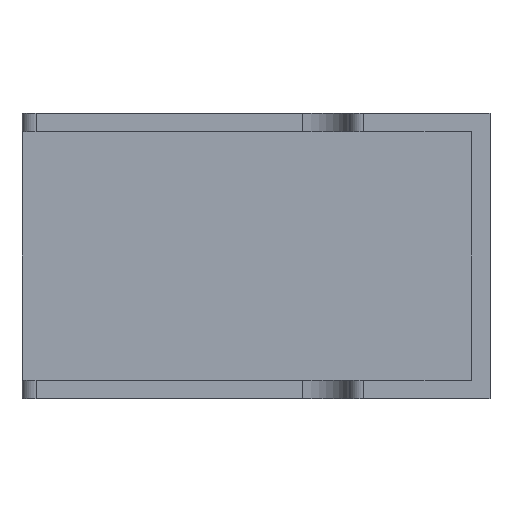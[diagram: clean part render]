
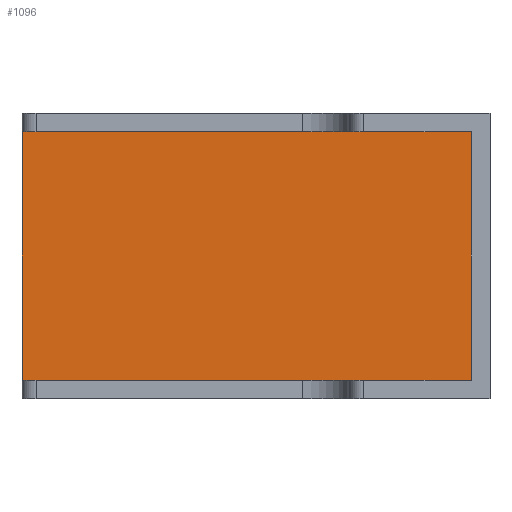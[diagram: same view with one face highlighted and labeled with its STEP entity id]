
A CAD part, front view. The second image highlights one B-rep face of the part: STEP entity #1096.
In plain terms, the highlighted planar face has unit normal (0, -1, 0).
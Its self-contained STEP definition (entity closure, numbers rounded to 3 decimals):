
#10 = CARTESIAN_POINT ( 'NONE',  ( 0., -2., 28.5 ) ) ;
#37 = CARTESIAN_POINT ( 'NONE',  ( 48., -2., 30.5 ) ) ;
#67 = EDGE_CURVE ( 'NONE', #335, #705, #248, .T. ) ;
#84 = ORIENTED_EDGE ( 'NONE', *, *, #923, .F. ) ;
#88 = DIRECTION ( 'NONE',  ( 0., 0., 1. ) ) ;
#137 = DIRECTION ( 'NONE',  ( 0., 0., -1. ) ) ;
#204 = PLANE ( 'NONE',  #341 ) ;
#248 = LINE ( 'NONE', #10, #1522 ) ;
#262 = ORIENTED_EDGE ( 'NONE', *, *, #67, .F. ) ;
#335 = VERTEX_POINT ( 'NONE', #561 ) ;
#341 = AXIS2_PLACEMENT_3D ( 'NONE', #1367, #440, #88 ) ;
#440 = DIRECTION ( 'NONE',  ( 0., 1., 0. ) ) ;
#446 = CARTESIAN_POINT ( 'NONE',  ( 0., -2., 2. ) ) ;
#472 = CARTESIAN_POINT ( 'NONE',  ( 48., -2., 28.5 ) ) ;
#494 = VECTOR ( 'NONE', #1478, 1000. ) ;
#538 = LINE ( 'NONE', #1250, #494 ) ;
#561 = CARTESIAN_POINT ( 'NONE',  ( 0., -2., 28.5 ) ) ;
#585 = VECTOR ( 'NONE', #137, 1000. ) ;
#705 = VERTEX_POINT ( 'NONE', #472 ) ;
#717 = DIRECTION ( 'NONE',  ( 1., 0., 0. ) ) ;
#722 = ORIENTED_EDGE ( 'NONE', *, *, #1409, .T. ) ;
#746 = VERTEX_POINT ( 'NONE', #1076 ) ;
#883 = VECTOR ( 'NONE', #1382, 1000. ) ;
#910 = CARTESIAN_POINT ( 'NONE',  ( 0., -2., 2. ) ) ;
#923 = EDGE_CURVE ( 'NONE', #705, #746, #1226, .T. ) ;
#935 = ORIENTED_EDGE ( 'NONE', *, *, #1348, .T. ) ;
#1051 = EDGE_LOOP ( 'NONE', ( #722, #84, #262, #935 ) ) ;
#1076 = CARTESIAN_POINT ( 'NONE',  ( 48., -2., 2. ) ) ;
#1096 = ADVANCED_FACE ( 'NONE', ( #1390 ), #204, .F. ) ;
#1143 = LINE ( 'NONE', #910, #883 ) ;
#1226 = LINE ( 'NONE', #37, #585 ) ;
#1250 = CARTESIAN_POINT ( 'NONE',  ( 0., -2., 30.5 ) ) ;
#1348 = EDGE_CURVE ( 'NONE', #335, #1416, #538, .T. ) ;
#1367 = CARTESIAN_POINT ( 'NONE',  ( 0., -2., 30.5 ) ) ;
#1382 = DIRECTION ( 'NONE',  ( 1., 0., 0. ) ) ;
#1390 = FACE_OUTER_BOUND ( 'NONE', #1051, .T. ) ;
#1409 = EDGE_CURVE ( 'NONE', #1416, #746, #1143, .T. ) ;
#1416 = VERTEX_POINT ( 'NONE', #446 ) ;
#1478 = DIRECTION ( 'NONE',  ( 0., 0., -1. ) ) ;
#1522 = VECTOR ( 'NONE', #717, 1000. ) ;
